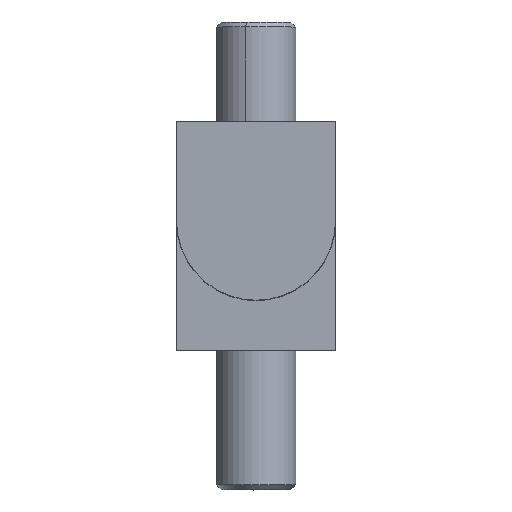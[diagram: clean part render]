
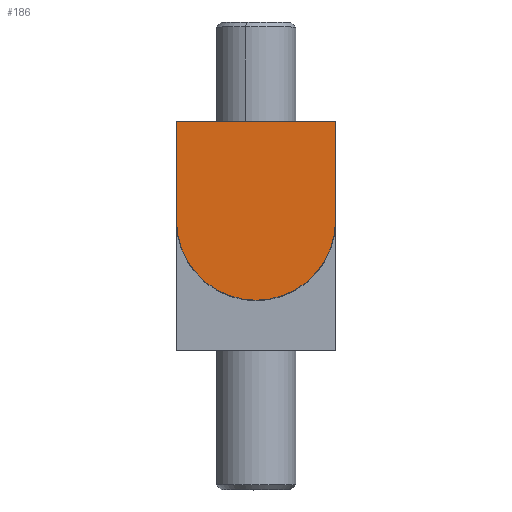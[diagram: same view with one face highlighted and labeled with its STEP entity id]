
A CAD part, top view. The second image highlights one B-rep face of the part: STEP entity #186.
In plain terms, the highlighted planar face has unit normal (0, 0, 1) as drawn and (0, 0, -1) by its records, which use the part's own axes.
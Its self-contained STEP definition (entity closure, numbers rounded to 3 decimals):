
#186 = ADVANCED_FACE ( 'NONE', ( #511 ), #615, .T. ) ;
#187 = ORIENTED_EDGE ( 'NONE', *, *, #1547, .F. ) ;
#188 = ORIENTED_EDGE ( 'NONE', *, *, #1521, .F. ) ;
#189 = ORIENTED_EDGE ( 'NONE', *, *, #1543, .F. ) ;
#190 = ORIENTED_EDGE ( 'NONE', *, *, #1520, .F. ) ;
#194 = EDGE_LOOP ( 'NONE', ( #187, #188, #189, #190 ) ) ;
#511 = FACE_OUTER_BOUND ( 'NONE', #194, .T. ) ;
#611 = DIRECTION ( 'NONE',  ( -1., 0., 0. ) ) ;
#612 = DIRECTION ( 'NONE',  ( 0., 0., -1. ) ) ;
#613 = CARTESIAN_POINT ( 'NONE',  ( 0., 10., 0. ) ) ;
#614 = AXIS2_PLACEMENT_3D ( 'NONE', #613, #612, #611 ) ;
#615 = PLANE ( 'NONE',  #614 ) ;
#988 = LINE ( 'NONE', #1030, #1029 ) ;
#1015 = DIRECTION ( 'NONE',  ( 0., 1., 0. ) ) ;
#1016 = VECTOR ( 'NONE', #1015, 1000. ) ;
#1017 = LINE ( 'NONE', #1069, #1068 ) ;
#1022 = CIRCLE ( 'NONE', #1100, 8. ) ;
#1027 = CARTESIAN_POINT ( 'NONE',  ( 8., 0., 0. ) ) ;
#1028 = DIRECTION ( 'NONE',  ( 1., 0., 0. ) ) ;
#1029 = VECTOR ( 'NONE', #1028, 1000. ) ;
#1030 = CARTESIAN_POINT ( 'NONE',  ( -8., 0., 0. ) ) ;
#1064 = CARTESIAN_POINT ( 'NONE',  ( -8., 10., 0. ) ) ;
#1065 = CARTESIAN_POINT ( 'NONE',  ( 8., 10., 0. ) ) ;
#1066 = LINE ( 'NONE', #1065, #1016 ) ;
#1067 = DIRECTION ( 'NONE',  ( 0., -1., 0. ) ) ;
#1068 = VECTOR ( 'NONE', #1067, 1000. ) ;
#1069 = CARTESIAN_POINT ( 'NONE',  ( -8., 10., 0. ) ) ;
#1074 = CARTESIAN_POINT ( 'NONE',  ( -8., 0., 0. ) ) ;
#1097 = DIRECTION ( 'NONE',  ( -1., 0., 0. ) ) ;
#1098 = DIRECTION ( 'NONE',  ( 0., 0., 1. ) ) ;
#1099 = CARTESIAN_POINT ( 'NONE',  ( 0., 10., 0. ) ) ;
#1100 = AXIS2_PLACEMENT_3D ( 'NONE', #1099, #1098, #1097 ) ;
#1152 = CARTESIAN_POINT ( 'NONE',  ( 8., 10., 0. ) ) ;
#1503 = VERTEX_POINT ( 'NONE', #1074 ) ;
#1515 = VERTEX_POINT ( 'NONE', #1064 ) ;
#1520 = EDGE_CURVE ( 'NONE', #1515, #1503, #1017, .T. ) ;
#1521 = EDGE_CURVE ( 'NONE', #1544, #1574, #1066, .T. ) ;
#1543 = EDGE_CURVE ( 'NONE', #1503, #1544, #988, .T. ) ;
#1544 = VERTEX_POINT ( 'NONE', #1027 ) ;
#1547 = EDGE_CURVE ( 'NONE', #1574, #1515, #1022, .T. ) ;
#1574 = VERTEX_POINT ( 'NONE', #1152 ) ;
